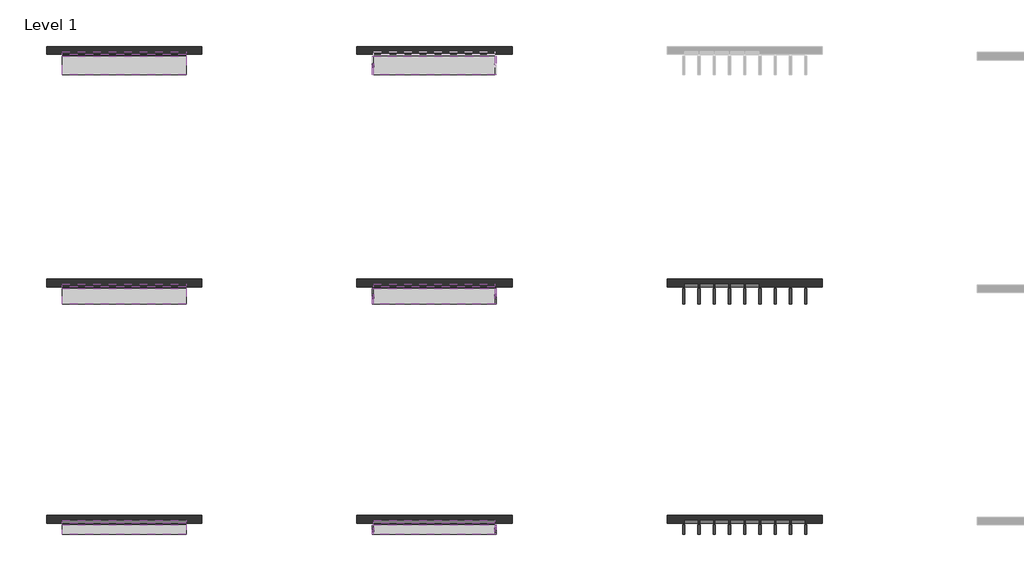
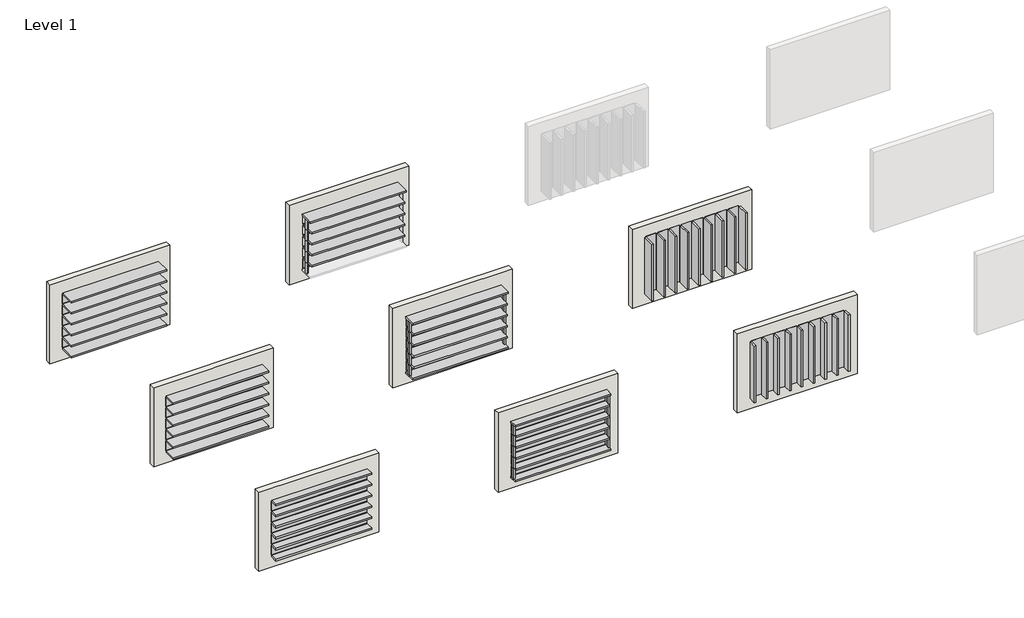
# One storey, part 1 of 2: 78 members, 42 plates, 8 walls.
"""IFC4 building model written with IfcOpenShell, lengths in millimetres."""

from ifc_helpers import new_model, si_unit, frame, origin, place, context, project, spatial, polyline, outline, extrude, transform, mapped, element, save
from components import rectangular_mullion_314c2c16, rectangular_mullion_e42d0783, rectangular_mullion_085ac4ea, rectangular_mullion_8bd04ff6, rectangular_mullion_a84aeb48, rectangular_mullion_c6d65d48, rectangular_mullion_2e33dcae, rectangular_mullion_94b31103, rectangular_mullion_7df8d016, rectangular_mullion_8bb3a10a, rectangular_mullion_d6f15889, rectangular_mullion_6e218a77, rectangular_mullion_b76d229c, rectangular_mullion_4c34dfbc, rectangular_mullion_be024750, rectangular_mullion_aae955fb, rectangular_mullion_9a2d486a, rectangular_mullion_e13a8b86, rectangular_mullion_43a89640, rectangular_mullion_75429e41, rectangular_mullion_9816f709, rectangular_mullion_ad60da95, rectangular_mullion_b48c3bbc, rectangular_mullion_64b65505, rectangular_mullion_6cfd7e29, rectangular_mullion_acc3b66f, rectangular_mullion_c6cb1da7, rectangular_mullion_bf93cbae, empty_system_panel_empty_a01ad49f, empty_system_panel_empty_cc8383ed, empty_system_panel_empty_ffccf032

model = new_model("IFC4")

# Units and contexts
model_context = context("Model", 3, world=origin())
ifc_project = project(units=[si_unit("LENGTHUNIT", "METRE", prefix="MILLI")], contexts=[model_context])

# Site, building, storey
site = spatial("IfcSite", under=ifc_project)
building = spatial("IfcBuilding", under=site)
storey = spatial("IfcBuildingStorey", under=building, Name="Level 1", Elevation=0.0)

# Members
placement = place(None, origin())
rectangular_mullion_shape = rectangular_mullion_314c2c16(model_context)
element("IfcMember", 1, ObjectType="Rectangular Mullion : DucoSun Cubic Design louvre 300", at=placement, inside=storey, context=model_context, shape_type="MappedRepresentation", body=[
    mapped(rectangular_mullion_shape, transform((-39750.3735323, 5955.0640004, 0.0), x_axis=(1.0, 0.0, 0.0), y_axis=(0.0, -1.0, 0.0), z_axis=(0.0, 0.0, -1.0))),
])
element("IfcMember", 2, ObjectType="Rectangular Mullion : DucoSun Cubic Design louvre 300", at=placement, inside=storey, context=model_context, shape_type="MappedRepresentation", body=[
    mapped(rectangular_mullion_shape, transform((-39258.8735324, 5955.0640004, 0.0), x_axis=(1.0, 0.0, 0.0), y_axis=(0.0, -1.0, 0.0), z_axis=(0.0, 0.0, -1.0))),
])
element("IfcMember", 3, ObjectType="Rectangular Mullion : DucoSun Cubic Design louvre 300", at=placement, inside=storey, context=model_context, shape_type="MappedRepresentation", body=[
    mapped(rectangular_mullion_shape, transform((-38767.3735325, 5955.0640004, 0.0), x_axis=(1.0, 0.0, 0.0), y_axis=(0.0, -1.0, 0.0), z_axis=(0.0, 0.0, -1.0))),
])
element("IfcMember", 4, ObjectType="Rectangular Mullion : DucoSun Cubic Design louvre 300", at=placement, inside=storey, context=model_context, shape_type="MappedRepresentation", body=[
    mapped(rectangular_mullion_shape, transform((-38275.8735325, 5955.0640004, 0.0), x_axis=(1.0, 0.0, 0.0), y_axis=(0.0, -1.0, 0.0), z_axis=(0.0, 0.0, -1.0))),
])
element("IfcMember", 5, ObjectType="Rectangular Mullion : DucoSun Cubic Design louvre 300", at=placement, inside=storey, context=model_context, shape_type="MappedRepresentation", body=[
    mapped(rectangular_mullion_shape, transform((-37784.3735326, 5955.0640004, 0.0), x_axis=(1.0, 0.0, 0.0), y_axis=(0.0, -1.0, 0.0), z_axis=(0.0, 0.0, -1.0))),
])
element("IfcMember", 6, ObjectType="Rectangular Mullion : DucoSun Cubic Design louvre 300", at=placement, inside=storey, context=model_context, shape_type="MappedRepresentation", body=[
    mapped(rectangular_mullion_shape, transform((-37292.8735327, 5955.0640004, 0.0), x_axis=(1.0, 0.0, 0.0), y_axis=(0.0, -1.0, 0.0), z_axis=(0.0, 0.0, -1.0))),
])
element("IfcMember", 7, ObjectType="Rectangular Mullion : DucoSun Cubic Design louvre 300", at=placement, inside=storey, context=model_context, shape_type="MappedRepresentation", body=[
    mapped(rectangular_mullion_shape, transform((-36801.3735328, 5955.0640004, 0.0), x_axis=(1.0, 0.0, 0.0), y_axis=(0.0, -1.0, 0.0), z_axis=(0.0, 0.0, -1.0))),
])
rectangular_mullion_2_shape = rectangular_mullion_e42d0783(model_context)
element("IfcMember", 8, ObjectType="Rectangular Mullion : DucoSun Cubic Design louvre 300", at=placement, inside=storey, context=model_context, shape_type="MappedRepresentation", body=[
    mapped(rectangular_mullion_2_shape, transform((-36275.8735325, 5955.0640004, 0.0), x_axis=(1.0, 0.0, 0.0), y_axis=(0.0, -1.0, 0.0), z_axis=(0.0, 0.0, -1.0))),
])
rectangular_mullion_3_shape = rectangular_mullion_085ac4ea(model_context)
element("IfcMember", 9, ObjectType="Rectangular Mullion : DucoSun Cubic Design louvre 300", at=placement, inside=storey, context=model_context, shape_type="MappedRepresentation", body=[
    mapped(rectangular_mullion_3_shape, transform((-40275.8735325, 5955.0640004, 2500.0), x_axis=(-1.0, 0.0, 0.0), y_axis=(0.0, -1.0, 0.0), z_axis=(0.0, 0.0, 1.0))),
])
rectangular_mullion_4_shape = rectangular_mullion_8bd04ff6(model_context)
element("IfcMember", 10, ObjectType="Rectangular Mullion : DucoSun Cubic Design louvre 500", at=placement, inside=storey, context=model_context, shape_type="MappedRepresentation", body=[
    mapped(rectangular_mullion_4_shape, transform((-39750.3735323, 13580.0640004, 0.0), x_axis=(1.0, 0.0, 0.0), y_axis=(0.0, -1.0, 0.0), z_axis=(0.0, 0.0, -1.0))),
])
element("IfcMember", 11, ObjectType="Rectangular Mullion : DucoSun Cubic Design louvre 500", at=placement, inside=storey, context=model_context, shape_type="MappedRepresentation", body=[
    mapped(rectangular_mullion_4_shape, transform((-39258.8735324, 13580.0640004, 0.0), x_axis=(1.0, 0.0, 0.0), y_axis=(0.0, -1.0, 0.0), z_axis=(0.0, 0.0, -1.0))),
])
element("IfcMember", 12, ObjectType="Rectangular Mullion : DucoSun Cubic Design louvre 500", at=placement, inside=storey, context=model_context, shape_type="MappedRepresentation", body=[
    mapped(rectangular_mullion_4_shape, transform((-38767.3735325, 13580.0640004, 0.0), x_axis=(1.0, 0.0, 0.0), y_axis=(0.0, -1.0, 0.0), z_axis=(0.0, 0.0, -1.0))),
])
element("IfcMember", 13, ObjectType="Rectangular Mullion : DucoSun Cubic Design louvre 500", at=placement, inside=storey, context=model_context, shape_type="MappedRepresentation", body=[
    mapped(rectangular_mullion_4_shape, transform((-38275.8735325, 13580.0640004, 0.0), x_axis=(1.0, 0.0, 0.0), y_axis=(0.0, -1.0, 0.0), z_axis=(0.0, 0.0, -1.0))),
])
element("IfcMember", 14, ObjectType="Rectangular Mullion : DucoSun Cubic Design louvre 500", at=placement, inside=storey, context=model_context, shape_type="MappedRepresentation", body=[
    mapped(rectangular_mullion_4_shape, transform((-37784.3735326, 13580.0640004, 0.0), x_axis=(1.0, 0.0, 0.0), y_axis=(0.0, -1.0, 0.0), z_axis=(0.0, 0.0, -1.0))),
])
element("IfcMember", 15, ObjectType="Rectangular Mullion : DucoSun Cubic Design louvre 500", at=placement, inside=storey, context=model_context, shape_type="MappedRepresentation", body=[
    mapped(rectangular_mullion_4_shape, transform((-37292.8735327, 13580.0640004, 0.0), x_axis=(1.0, 0.0, 0.0), y_axis=(0.0, -1.0, 0.0), z_axis=(0.0, 0.0, -1.0))),
])
element("IfcMember", 16, ObjectType="Rectangular Mullion : DucoSun Cubic Design louvre 500", at=placement, inside=storey, context=model_context, shape_type="MappedRepresentation", body=[
    mapped(rectangular_mullion_4_shape, transform((-36801.3735328, 13580.0640004, 0.0), x_axis=(1.0, 0.0, 0.0), y_axis=(0.0, -1.0, 0.0), z_axis=(0.0, 0.0, -1.0))),
])
rectangular_mullion_5_shape = rectangular_mullion_a84aeb48(model_context)
element("IfcMember", 17, ObjectType="Rectangular Mullion : DucoSun Cubic Design louvre 500", at=placement, inside=storey, context=model_context, shape_type="MappedRepresentation", body=[
    mapped(rectangular_mullion_5_shape, transform((-36275.8735325, 13580.0640004, 0.0), x_axis=(1.0, 0.0, 0.0), y_axis=(0.0, -1.0, 0.0), z_axis=(0.0, 0.0, -1.0))),
])
rectangular_mullion_6_shape = rectangular_mullion_c6d65d48(model_context)
element("IfcMember", 18, ObjectType="Rectangular Mullion : DucoSun Cubic Design louvre 500", at=placement, inside=storey, context=model_context, shape_type="MappedRepresentation", body=[
    mapped(rectangular_mullion_6_shape, transform((-40275.8735325, 13580.0640004, 2500.0), x_axis=(-1.0, 0.0, 0.0), y_axis=(0.0, -1.0, 0.0), z_axis=(0.0, 0.0, 1.0))),
])
rectangular_mullion_7_shape = rectangular_mullion_2e33dcae(model_context)
element("IfcMember", 19, ObjectType="Rectangular Mullion : DucoSun Cubic Design louvre 300", at=placement, inside=storey, context=model_context, shape_type="MappedRepresentation", body=[
    mapped(rectangular_mullion_7_shape, transform((-60275.8735325, 5955.0640004, 2500.0), x_axis=(0.0, 0.0, 1.0), y_axis=(0.0, 1.0, 0.0), z_axis=(-1.0, 0.0, 0.0))),
])
rectangular_mullion_8_shape = rectangular_mullion_94b31103(model_context)
element("IfcMember", 20, ObjectType="Rectangular Mullion : DucoSun Cubic Design louvre 300", at=placement, inside=storey, context=model_context, shape_type="MappedRepresentation", body=[
    mapped(rectangular_mullion_8_shape, transform((-56275.8735325, 5955.0640004, 0.0), x_axis=(0.0, 0.0, -1.0), y_axis=(0.0, 1.0, 0.0), z_axis=(1.0, 0.0, 0.0))),
])
rectangular_mullion_9_shape = rectangular_mullion_7df8d016(model_context)
element("IfcMember", 21, ObjectType="Rectangular Mullion : DucoSun Cubic Design louvre 300", at=placement, inside=storey, context=model_context, shape_type="MappedRepresentation", body=[
    mapped(rectangular_mullion_9_shape, transform((-60275.8735325, 5955.0640004, 520.4), x_axis=(0.0, 0.0, 1.0), y_axis=(0.0, 1.0, 0.0), z_axis=(-1.0, 0.0, 0.0))),
])
element("IfcMember", 22, ObjectType="Rectangular Mullion : DucoSun Cubic Design louvre 300", at=placement, inside=storey, context=model_context, shape_type="MappedRepresentation", body=[
    mapped(rectangular_mullion_9_shape, transform((-60275.8735325, 5955.0640004, 1006.8), x_axis=(0.0, 0.0, 1.0), y_axis=(0.0, 1.0, 0.0), z_axis=(-1.0, 0.0, 0.0))),
])
element("IfcMember", 23, ObjectType="Rectangular Mullion : DucoSun Cubic Design louvre 300", at=placement, inside=storey, context=model_context, shape_type="MappedRepresentation", body=[
    mapped(rectangular_mullion_9_shape, transform((-60275.8735325, 5955.0640004, 1493.2), x_axis=(0.0, 0.0, 1.0), y_axis=(0.0, 1.0, 0.0), z_axis=(-1.0, 0.0, 0.0))),
])
element("IfcMember", 24, ObjectType="Rectangular Mullion : DucoSun Cubic Design louvre 300", at=placement, inside=storey, context=model_context, shape_type="MappedRepresentation", body=[
    mapped(rectangular_mullion_9_shape, transform((-60275.8735325, 5955.0640004, 1979.6), x_axis=(0.0, 0.0, 1.0), y_axis=(0.0, 1.0, 0.0), z_axis=(-1.0, 0.0, 0.0))),
])
rectangular_mullion_10_shape = rectangular_mullion_8bb3a10a(model_context)
element("IfcMember", 25, ObjectType="Rectangular Mullion : DucoSun Cubic Design louvre 500", at=placement, inside=storey, context=model_context, shape_type="MappedRepresentation", body=[
    mapped(rectangular_mullion_10_shape, transform((-60275.8735325, 13580.0640004, 2500.0), x_axis=(0.0, 0.0, 1.0), y_axis=(0.0, 1.0, 0.0), z_axis=(-1.0, 0.0, 0.0))),
])
rectangular_mullion_11_shape = rectangular_mullion_d6f15889(model_context)
element("IfcMember", 26, ObjectType="Rectangular Mullion : DucoSun Cubic Design louvre 500", at=placement, inside=storey, context=model_context, shape_type="MappedRepresentation", body=[
    mapped(rectangular_mullion_11_shape, transform((-56275.8735325, 13580.0640004, 0.0), x_axis=(0.0, 0.0, -1.0), y_axis=(0.0, 1.0, 0.0), z_axis=(1.0, 0.0, 0.0))),
])
rectangular_mullion_12_shape = rectangular_mullion_6e218a77(model_context)
element("IfcMember", 27, ObjectType="Rectangular Mullion : DucoSun Cubic Design louvre 500", at=placement, inside=storey, context=model_context, shape_type="MappedRepresentation", body=[
    mapped(rectangular_mullion_12_shape, transform((-60275.8735325, 13580.0640004, 520.4), x_axis=(0.0, 0.0, 1.0), y_axis=(0.0, 1.0, 0.0), z_axis=(-1.0, 0.0, 0.0))),
])
element("IfcMember", 28, ObjectType="Rectangular Mullion : DucoSun Cubic Design louvre 500", at=placement, inside=storey, context=model_context, shape_type="MappedRepresentation", body=[
    mapped(rectangular_mullion_12_shape, transform((-60275.8735325, 13580.0640004, 1006.8), x_axis=(0.0, 0.0, 1.0), y_axis=(0.0, 1.0, 0.0), z_axis=(-1.0, 0.0, 0.0))),
])
element("IfcMember", 29, ObjectType="Rectangular Mullion : DucoSun Cubic Design louvre 500", at=placement, inside=storey, context=model_context, shape_type="MappedRepresentation", body=[
    mapped(rectangular_mullion_12_shape, transform((-60275.8735325, 13580.0640004, 1493.2), x_axis=(0.0, 0.0, 1.0), y_axis=(0.0, 1.0, 0.0), z_axis=(-1.0, 0.0, 0.0))),
])
element("IfcMember", 30, ObjectType="Rectangular Mullion : DucoSun Cubic Design louvre 500", at=placement, inside=storey, context=model_context, shape_type="MappedRepresentation", body=[
    mapped(rectangular_mullion_12_shape, transform((-60275.8735325, 13580.0640004, 1979.6), x_axis=(0.0, 0.0, 1.0), y_axis=(0.0, 1.0, 0.0), z_axis=(-1.0, 0.0, 0.0))),
])
rectangular_mullion_13_shape = rectangular_mullion_b76d229c(model_context)
element("IfcMember", 31, ObjectType="Rectangular Mullion : DucoSun Cubic Design louvre 600", at=placement, inside=storey, context=model_context, shape_type="MappedRepresentation", body=[
    mapped(rectangular_mullion_13_shape, transform((-60275.8735325, 21080.0640004, 2500.0), x_axis=(0.0, 0.0, 1.0), y_axis=(0.0, 1.0, 0.0), z_axis=(-1.0, 0.0, 0.0))),
])
rectangular_mullion_14_shape = rectangular_mullion_4c34dfbc(model_context)
element("IfcMember", 32, ObjectType="Rectangular Mullion : DucoSun Cubic Design louvre 600", at=placement, inside=storey, context=model_context, shape_type="MappedRepresentation", body=[
    mapped(rectangular_mullion_14_shape, transform((-56275.8735325, 21080.0640004, 0.0), x_axis=(0.0, 0.0, -1.0), y_axis=(0.0, 1.0, 0.0), z_axis=(1.0, 0.0, 0.0))),
])
rectangular_mullion_15_shape = rectangular_mullion_be024750(model_context)
element("IfcMember", 33, ObjectType="Rectangular Mullion : DucoSun Cubic Design louvre 600", at=placement, inside=storey, context=model_context, shape_type="MappedRepresentation", body=[
    mapped(rectangular_mullion_15_shape, transform((-60275.8735325, 21080.0640004, 520.4), x_axis=(0.0, 0.0, 1.0), y_axis=(0.0, 1.0, 0.0), z_axis=(-1.0, 0.0, 0.0))),
])
element("IfcMember", 34, ObjectType="Rectangular Mullion : DucoSun Cubic Design louvre 600", at=placement, inside=storey, context=model_context, shape_type="MappedRepresentation", body=[
    mapped(rectangular_mullion_15_shape, transform((-60275.8735325, 21080.0640004, 1006.8), x_axis=(0.0, 0.0, 1.0), y_axis=(0.0, 1.0, 0.0), z_axis=(-1.0, 0.0, 0.0))),
])
element("IfcMember", 35, ObjectType="Rectangular Mullion : DucoSun Cubic Design louvre 600", at=placement, inside=storey, context=model_context, shape_type="MappedRepresentation", body=[
    mapped(rectangular_mullion_15_shape, transform((-60275.8735325, 21080.0640004, 1493.2), x_axis=(0.0, 0.0, 1.0), y_axis=(0.0, 1.0, 0.0), z_axis=(-1.0, 0.0, 0.0))),
])
element("IfcMember", 36, ObjectType="Rectangular Mullion : DucoSun Cubic Design louvre 600", at=placement, inside=storey, context=model_context, shape_type="MappedRepresentation", body=[
    mapped(rectangular_mullion_15_shape, transform((-60275.8735325, 21080.0640004, 1979.6), x_axis=(0.0, 0.0, 1.0), y_axis=(0.0, 1.0, 0.0), z_axis=(-1.0, 0.0, 0.0))),
])
element("IfcMember", 37, ObjectType="Rectangular Mullion : DucoSun Cubic Design louvre 300", at=placement, inside=storey, context=model_context, shape_type="MappedRepresentation", body=[
    mapped(rectangular_mullion_7_shape, transform((-50275.8735325, 5955.0640004, 2500.0), x_axis=(0.0, 0.0, 1.0), y_axis=(0.0, 1.0, 0.0), z_axis=(-1.0, 0.0, 0.0))),
])
element("IfcMember", 38, ObjectType="Rectangular Mullion : DucoSun Cubic Design louvre 300", at=placement, inside=storey, context=model_context, shape_type="MappedRepresentation", body=[
    mapped(rectangular_mullion_8_shape, transform((-46275.8735325, 5955.0640004, 0.0), x_axis=(0.0, 0.0, -1.0), y_axis=(0.0, 1.0, 0.0), z_axis=(1.0, 0.0, 0.0))),
])
rectangular_mullion_16_shape = rectangular_mullion_aae955fb(model_context)
element("IfcMember", 39, ObjectType="Rectangular Mullion : DucoSun Cubic Design louvre 300", at=placement, inside=storey, context=model_context, shape_type="MappedRepresentation", body=[
    mapped(rectangular_mullion_16_shape, transform((-50225.8735325, 5955.0640004, 520.4), x_axis=(0.0, 0.0, 1.0), y_axis=(0.0, 1.0, 0.0), z_axis=(-1.0, 0.0, 0.0))),
])
element("IfcMember", 40, ObjectType="Rectangular Mullion : DucoSun Cubic Design louvre 300", at=placement, inside=storey, context=model_context, shape_type="MappedRepresentation", body=[
    mapped(rectangular_mullion_16_shape, transform((-50225.8735325, 5955.0640004, 1006.8), x_axis=(0.0, 0.0, 1.0), y_axis=(0.0, 1.0, 0.0), z_axis=(-1.0, 0.0, 0.0))),
])
element("IfcMember", 41, ObjectType="Rectangular Mullion : DucoSun Cubic Design louvre 300", at=placement, inside=storey, context=model_context, shape_type="MappedRepresentation", body=[
    mapped(rectangular_mullion_16_shape, transform((-50225.8735325, 5955.0640004, 1493.2), x_axis=(0.0, 0.0, 1.0), y_axis=(0.0, 1.0, 0.0), z_axis=(-1.0, 0.0, 0.0))),
])
element("IfcMember", 42, ObjectType="Rectangular Mullion : DucoSun Cubic Design louvre 300", at=placement, inside=storey, context=model_context, shape_type="MappedRepresentation", body=[
    mapped(rectangular_mullion_16_shape, transform((-50225.8735325, 5955.0640004, 1979.6), x_axis=(0.0, 0.0, 1.0), y_axis=(0.0, 1.0, 0.0), z_axis=(-1.0, 0.0, 0.0))),
])
rectangular_mullion_17_shape = rectangular_mullion_9a2d486a(model_context)
element("IfcMember", 43, ObjectType="Rectangular Mullion : DucoSun Cubic Design profile 50x125 for louvre 300", at=placement, inside=storey, context=model_context, shape_type="MappedRepresentation", body=[
    mapped(rectangular_mullion_17_shape, transform((-50275.8735325, 5955.0640004, 68.0), x_axis=(-1.0, 0.0, 0.0), y_axis=(0.0, 1.0, 0.0), z_axis=(0.0, 0.0, -1.0))),
])
rectangular_mullion_18_shape = rectangular_mullion_e13a8b86(model_context)
element("IfcMember", 44, ObjectType="Rectangular Mullion : DucoSun Cubic Design profile 50x125 for louvre 300", at=placement, inside=storey, context=model_context, shape_type="MappedRepresentation", body=[
    mapped(rectangular_mullion_18_shape, transform((-50275.8735325, 5955.0640004, 520.4), x_axis=(-1.0, 0.0, 0.0), y_axis=(0.0, 1.0, 0.0), z_axis=(0.0, 0.0, -1.0))),
])
element("IfcMember", 45, ObjectType="Rectangular Mullion : DucoSun Cubic Design profile 50x125 for louvre 300", at=placement, inside=storey, context=model_context, shape_type="MappedRepresentation", body=[
    mapped(rectangular_mullion_18_shape, transform((-50275.8735325, 5955.0640004, 1006.8), x_axis=(-1.0, 0.0, 0.0), y_axis=(0.0, 1.0, 0.0), z_axis=(0.0, 0.0, -1.0))),
])
element("IfcMember", 46, ObjectType="Rectangular Mullion : DucoSun Cubic Design profile 50x125 for louvre 300", at=placement, inside=storey, context=model_context, shape_type="MappedRepresentation", body=[
    mapped(rectangular_mullion_18_shape, transform((-50275.8735325, 5955.0640004, 1493.2), x_axis=(-1.0, 0.0, 0.0), y_axis=(0.0, 1.0, 0.0), z_axis=(0.0, 0.0, -1.0))),
])
element("IfcMember", 47, ObjectType="Rectangular Mullion : DucoSun Cubic Design profile 50x125 for louvre 300", at=placement, inside=storey, context=model_context, shape_type="MappedRepresentation", body=[
    mapped(rectangular_mullion_17_shape, transform((-50275.8735325, 5955.0640004, 1979.6), x_axis=(-1.0, 0.0, 0.0), y_axis=(0.0, 1.0, 0.0), z_axis=(0.0, 0.0, -1.0))),
])
rectangular_mullion_19_shape = rectangular_mullion_43a89640(model_context)
element("IfcMember", 48, ObjectType="Rectangular Mullion : DucoSun Cubic Design profile 50x125 for louvre 300", at=placement, inside=storey, context=model_context, shape_type="MappedRepresentation", body=[
    mapped(rectangular_mullion_19_shape, transform((-46275.8735325, 5955.0640004, 2432.0), x_axis=(1.0, 0.0, 0.0), y_axis=(0.0, 1.0, 0.0), z_axis=(0.0, 0.0, 1.0))),
])
element("IfcMember", 49, ObjectType="Rectangular Mullion : DucoSun Cubic Design profile 50x125 for louvre 300", at=placement, inside=storey, context=model_context, shape_type="MappedRepresentation", body=[
    mapped(rectangular_mullion_19_shape, transform((-46275.8735325, 5955.0640004, 520.4), x_axis=(1.0, 0.0, 0.0), y_axis=(0.0, 1.0, 0.0), z_axis=(0.0, 0.0, 1.0))),
])
rectangular_mullion_20_shape = rectangular_mullion_75429e41(model_context)
element("IfcMember", 50, ObjectType="Rectangular Mullion : DucoSun Cubic Design profile 50x125 for louvre 300", at=placement, inside=storey, context=model_context, shape_type="MappedRepresentation", body=[
    mapped(rectangular_mullion_20_shape, transform((-46275.8735325, 5955.0640004, 1006.8), x_axis=(1.0, 0.0, 0.0), y_axis=(0.0, 1.0, 0.0), z_axis=(0.0, 0.0, 1.0))),
])
element("IfcMember", 51, ObjectType="Rectangular Mullion : DucoSun Cubic Design profile 50x125 for louvre 300", at=placement, inside=storey, context=model_context, shape_type="MappedRepresentation", body=[
    mapped(rectangular_mullion_20_shape, transform((-46275.8735325, 5955.0640004, 1493.2), x_axis=(1.0, 0.0, 0.0), y_axis=(0.0, 1.0, 0.0), z_axis=(0.0, 0.0, 1.0))),
])
element("IfcMember", 52, ObjectType="Rectangular Mullion : DucoSun Cubic Design profile 50x125 for louvre 300", at=placement, inside=storey, context=model_context, shape_type="MappedRepresentation", body=[
    mapped(rectangular_mullion_20_shape, transform((-46275.8735325, 5955.0640004, 1979.6), x_axis=(1.0, 0.0, 0.0), y_axis=(0.0, 1.0, 0.0), z_axis=(0.0, 0.0, 1.0))),
])
element("IfcMember", 53, ObjectType="Rectangular Mullion : DucoSun Cubic Design louvre 500", at=placement, inside=storey, context=model_context, shape_type="MappedRepresentation", body=[
    mapped(rectangular_mullion_10_shape, transform((-50275.8735325, 13580.0640004, 2500.0), x_axis=(0.0, 0.0, 1.0), y_axis=(0.0, 1.0, 0.0), z_axis=(-1.0, 0.0, 0.0))),
])
element("IfcMember", 54, ObjectType="Rectangular Mullion : DucoSun Cubic Design louvre 500", at=placement, inside=storey, context=model_context, shape_type="MappedRepresentation", body=[
    mapped(rectangular_mullion_11_shape, transform((-46275.8735325, 13580.0640004, 0.0), x_axis=(0.0, 0.0, -1.0), y_axis=(0.0, 1.0, 0.0), z_axis=(1.0, 0.0, 0.0))),
])
rectangular_mullion_21_shape = rectangular_mullion_9816f709(model_context)
element("IfcMember", 55, ObjectType="Rectangular Mullion : DucoSun Cubic Design louvre 500", at=placement, inside=storey, context=model_context, shape_type="MappedRepresentation", body=[
    mapped(rectangular_mullion_21_shape, transform((-50225.8735325, 13580.0640004, 520.4), x_axis=(0.0, 0.0, 1.0), y_axis=(0.0, 1.0, 0.0), z_axis=(-1.0, 0.0, 0.0))),
])
element("IfcMember", 56, ObjectType="Rectangular Mullion : DucoSun Cubic Design louvre 500", at=placement, inside=storey, context=model_context, shape_type="MappedRepresentation", body=[
    mapped(rectangular_mullion_21_shape, transform((-50225.8735325, 13580.0640004, 1006.8), x_axis=(0.0, 0.0, 1.0), y_axis=(0.0, 1.0, 0.0), z_axis=(-1.0, 0.0, 0.0))),
])
element("IfcMember", 57, ObjectType="Rectangular Mullion : DucoSun Cubic Design louvre 500", at=placement, inside=storey, context=model_context, shape_type="MappedRepresentation", body=[
    mapped(rectangular_mullion_21_shape, transform((-50225.8735325, 13580.0640004, 1493.2), x_axis=(0.0, 0.0, 1.0), y_axis=(0.0, 1.0, 0.0), z_axis=(-1.0, 0.0, 0.0))),
])
element("IfcMember", 58, ObjectType="Rectangular Mullion : DucoSun Cubic Design louvre 500", at=placement, inside=storey, context=model_context, shape_type="MappedRepresentation", body=[
    mapped(rectangular_mullion_21_shape, transform((-50225.8735325, 13580.0640004, 1979.6), x_axis=(0.0, 0.0, 1.0), y_axis=(0.0, 1.0, 0.0), z_axis=(-1.0, 0.0, 0.0))),
])
rectangular_mullion_22_shape = rectangular_mullion_ad60da95(model_context)
element("IfcMember", 59, ObjectType="Rectangular Mullion : DucoSun Cubic Design profile 50x125 for louvre 500", at=placement, inside=storey, context=model_context, shape_type="MappedRepresentation", body=[
    mapped(rectangular_mullion_22_shape, transform((-50275.8735325, 13580.0640004, 68.0), x_axis=(-1.0, 0.0, 0.0), y_axis=(0.0, 1.0, 0.0), z_axis=(0.0, 0.0, -1.0))),
])
rectangular_mullion_23_shape = rectangular_mullion_b48c3bbc(model_context)
element("IfcMember", 60, ObjectType="Rectangular Mullion : DucoSun Cubic Design profile 50x125 for louvre 500", at=placement, inside=storey, context=model_context, shape_type="MappedRepresentation", body=[
    mapped(rectangular_mullion_23_shape, transform((-50275.8735325, 13580.0640004, 520.4), x_axis=(-1.0, 0.0, 0.0), y_axis=(0.0, 1.0, 0.0), z_axis=(0.0, 0.0, -1.0))),
])
element("IfcMember", 61, ObjectType="Rectangular Mullion : DucoSun Cubic Design profile 50x125 for louvre 500", at=placement, inside=storey, context=model_context, shape_type="MappedRepresentation", body=[
    mapped(rectangular_mullion_23_shape, transform((-50275.8735325, 13580.0640004, 1006.8), x_axis=(-1.0, 0.0, 0.0), y_axis=(0.0, 1.0, 0.0), z_axis=(0.0, 0.0, -1.0))),
])
element("IfcMember", 62, ObjectType="Rectangular Mullion : DucoSun Cubic Design profile 50x125 for louvre 500", at=placement, inside=storey, context=model_context, shape_type="MappedRepresentation", body=[
    mapped(rectangular_mullion_23_shape, transform((-50275.8735325, 13580.0640004, 1493.2), x_axis=(-1.0, 0.0, 0.0), y_axis=(0.0, 1.0, 0.0), z_axis=(0.0, 0.0, -1.0))),
])
element("IfcMember", 63, ObjectType="Rectangular Mullion : DucoSun Cubic Design profile 50x125 for louvre 500", at=placement, inside=storey, context=model_context, shape_type="MappedRepresentation", body=[
    mapped(rectangular_mullion_22_shape, transform((-50275.8735325, 13580.0640004, 1979.6), x_axis=(-1.0, 0.0, 0.0), y_axis=(0.0, 1.0, 0.0), z_axis=(0.0, 0.0, -1.0))),
])
rectangular_mullion_24_shape = rectangular_mullion_64b65505(model_context)
element("IfcMember", 64, ObjectType="Rectangular Mullion : DucoSun Cubic Design profile 50x125 for louvre 500", at=placement, inside=storey, context=model_context, shape_type="MappedRepresentation", body=[
    mapped(rectangular_mullion_24_shape, transform((-46275.8735325, 13580.0640004, 2432.0), x_axis=(1.0, 0.0, 0.0), y_axis=(0.0, 1.0, 0.0), z_axis=(0.0, 0.0, 1.0))),
])
element("IfcMember", 65, ObjectType="Rectangular Mullion : DucoSun Cubic Design profile 50x125 for louvre 500", at=placement, inside=storey, context=model_context, shape_type="MappedRepresentation", body=[
    mapped(rectangular_mullion_24_shape, transform((-46275.8735325, 13580.0640004, 520.4), x_axis=(1.0, 0.0, 0.0), y_axis=(0.0, 1.0, 0.0), z_axis=(0.0, 0.0, 1.0))),
])
rectangular_mullion_25_shape = rectangular_mullion_6cfd7e29(model_context)
element("IfcMember", 66, ObjectType="Rectangular Mullion : DucoSun Cubic Design profile 50x125 for louvre 500", at=placement, inside=storey, context=model_context, shape_type="MappedRepresentation", body=[
    mapped(rectangular_mullion_25_shape, transform((-46275.8735325, 13580.0640004, 1006.8), x_axis=(1.0, 0.0, 0.0), y_axis=(0.0, 1.0, 0.0), z_axis=(0.0, 0.0, 1.0))),
])
element("IfcMember", 67, ObjectType="Rectangular Mullion : DucoSun Cubic Design profile 50x125 for louvre 500", at=placement, inside=storey, context=model_context, shape_type="MappedRepresentation", body=[
    mapped(rectangular_mullion_25_shape, transform((-46275.8735325, 13580.0640004, 1493.2), x_axis=(1.0, 0.0, 0.0), y_axis=(0.0, 1.0, 0.0), z_axis=(0.0, 0.0, 1.0))),
])
element("IfcMember", 68, ObjectType="Rectangular Mullion : DucoSun Cubic Design profile 50x125 for louvre 500", at=placement, inside=storey, context=model_context, shape_type="MappedRepresentation", body=[
    mapped(rectangular_mullion_25_shape, transform((-46275.8735325, 13580.0640004, 1979.6), x_axis=(1.0, 0.0, 0.0), y_axis=(0.0, 1.0, 0.0), z_axis=(0.0, 0.0, 1.0))),
])
element("IfcMember", 69, ObjectType="Rectangular Mullion : DucoSun Cubic Design louvre 600", at=placement, inside=storey, context=model_context, shape_type="MappedRepresentation", body=[
    mapped(rectangular_mullion_13_shape, transform((-50275.8735325, 21080.0640004, 2500.0), x_axis=(0.0, 0.0, 1.0), y_axis=(0.0, 1.0, 0.0), z_axis=(-1.0, 0.0, 0.0))),
])
rectangular_mullion_26_shape = rectangular_mullion_acc3b66f(model_context)
element("IfcMember", 70, ObjectType="Rectangular Mullion : DucoSun Cubic Design louvre 600", at=placement, inside=storey, context=model_context, shape_type="MappedRepresentation", body=[
    mapped(rectangular_mullion_26_shape, transform((-50225.8735325, 21080.0640004, 520.4), x_axis=(0.0, 0.0, 1.0), y_axis=(0.0, 1.0, 0.0), z_axis=(-1.0, 0.0, 0.0))),
])
element("IfcMember", 71, ObjectType="Rectangular Mullion : DucoSun Cubic Design louvre 600", at=placement, inside=storey, context=model_context, shape_type="MappedRepresentation", body=[
    mapped(rectangular_mullion_26_shape, transform((-50225.8735325, 21080.0640004, 1006.8), x_axis=(0.0, 0.0, 1.0), y_axis=(0.0, 1.0, 0.0), z_axis=(-1.0, 0.0, 0.0))),
])
element("IfcMember", 72, ObjectType="Rectangular Mullion : DucoSun Cubic Design louvre 600", at=placement, inside=storey, context=model_context, shape_type="MappedRepresentation", body=[
    mapped(rectangular_mullion_26_shape, transform((-50225.8735325, 21080.0640004, 1493.2), x_axis=(0.0, 0.0, 1.0), y_axis=(0.0, 1.0, 0.0), z_axis=(-1.0, 0.0, 0.0))),
])
element("IfcMember", 73, ObjectType="Rectangular Mullion : DucoSun Cubic Design louvre 600", at=placement, inside=storey, context=model_context, shape_type="MappedRepresentation", body=[
    mapped(rectangular_mullion_26_shape, transform((-50225.8735325, 21080.0640004, 1979.6), x_axis=(0.0, 0.0, 1.0), y_axis=(0.0, 1.0, 0.0), z_axis=(-1.0, 0.0, 0.0))),
])
rectangular_mullion_27_shape = rectangular_mullion_c6cb1da7(model_context)
element("IfcMember", 74, ObjectType="Rectangular Mullion : DucoSun Cubic Design profile 50x125 for louvre 600", at=placement, inside=storey, context=model_context, shape_type="MappedRepresentation", body=[
    mapped(rectangular_mullion_27_shape, transform((-50275.8735325, 21080.0640004, 68.0), x_axis=(-1.0, 0.0, 0.0), y_axis=(0.0, 1.0, 0.0), z_axis=(0.0, 0.0, -1.0))),
])
rectangular_mullion_28_shape = rectangular_mullion_bf93cbae(model_context)
element("IfcMember", 75, ObjectType="Rectangular Mullion : DucoSun Cubic Design profile 50x125 for louvre 600", at=placement, inside=storey, context=model_context, shape_type="MappedRepresentation", body=[
    mapped(rectangular_mullion_28_shape, transform((-50275.8735325, 21080.0640004, 520.4), x_axis=(-1.0, 0.0, 0.0), y_axis=(0.0, 1.0, 0.0), z_axis=(0.0, 0.0, -1.0))),
])
element("IfcMember", 76, ObjectType="Rectangular Mullion : DucoSun Cubic Design profile 50x125 for louvre 600", at=placement, inside=storey, context=model_context, shape_type="MappedRepresentation", body=[
    mapped(rectangular_mullion_28_shape, transform((-50275.8735325, 21080.0640004, 1006.8), x_axis=(-1.0, 0.0, 0.0), y_axis=(0.0, 1.0, 0.0), z_axis=(0.0, 0.0, -1.0))),
])
element("IfcMember", 77, ObjectType="Rectangular Mullion : DucoSun Cubic Design profile 50x125 for louvre 600", at=placement, inside=storey, context=model_context, shape_type="MappedRepresentation", body=[
    mapped(rectangular_mullion_28_shape, transform((-50275.8735325, 21080.0640004, 1493.2), x_axis=(-1.0, 0.0, 0.0), y_axis=(0.0, 1.0, 0.0), z_axis=(0.0, 0.0, -1.0))),
])
element("IfcMember", 78, ObjectType="Rectangular Mullion : DucoSun Cubic Design profile 50x125 for louvre 600", at=placement, inside=storey, context=model_context, shape_type="MappedRepresentation", body=[
    mapped(rectangular_mullion_27_shape, transform((-50275.8735325, 21080.0640004, 1979.6), x_axis=(-1.0, 0.0, 0.0), y_axis=(0.0, 1.0, 0.0), z_axis=(0.0, 0.0, -1.0))),
])

# Plates
empty_system_panel_empty_shape = empty_system_panel_empty_a01ad49f(model_context)
element("IfcPlate", 79, ObjectType="Empty System Panel : Empty", at=placement, inside=storey, context=model_context, shape_type="MappedRepresentation", body=[
    mapped(empty_system_panel_empty_shape, transform((-39996.1235324, 5955.0640004, 0.0), x_axis=(1.0, 0.0, 0.0), y_axis=(0.0, 1.0, 0.0), z_axis=(0.0, 0.0, 1.0))),
])
element("IfcPlate", 80, ObjectType="Empty System Panel : Empty", at=placement, inside=storey, context=model_context, shape_type="MappedRepresentation", body=[
    mapped(empty_system_panel_empty_shape, transform((-39504.6235323, 5955.0640004, 0.0), x_axis=(1.0, 0.0, 0.0), y_axis=(0.0, 1.0, 0.0), z_axis=(0.0, 0.0, 1.0))),
])
element("IfcPlate", 81, ObjectType="Empty System Panel : Empty", at=placement, inside=storey, context=model_context, shape_type="MappedRepresentation", body=[
    mapped(empty_system_panel_empty_shape, transform((-39013.1235324, 5955.0640004, 0.0), x_axis=(1.0, 0.0, 0.0), y_axis=(0.0, 1.0, 0.0), z_axis=(0.0, 0.0, 1.0))),
])
element("IfcPlate", 82, ObjectType="Empty System Panel : Empty", at=placement, inside=storey, context=model_context, shape_type="MappedRepresentation", body=[
    mapped(empty_system_panel_empty_shape, transform((-38521.6235325, 5955.0640004, 0.0), x_axis=(1.0, 0.0, 0.0), y_axis=(0.0, 1.0, 0.0), z_axis=(0.0, 0.0, 1.0))),
])
element("IfcPlate", 83, ObjectType="Empty System Panel : Empty", at=placement, inside=storey, context=model_context, shape_type="MappedRepresentation", body=[
    mapped(empty_system_panel_empty_shape, transform((-38030.1235326, 5955.0640004, 0.0), x_axis=(1.0, 0.0, 0.0), y_axis=(0.0, 1.0, 0.0), z_axis=(0.0, 0.0, 1.0))),
])
element("IfcPlate", 84, ObjectType="Empty System Panel : Empty", at=placement, inside=storey, context=model_context, shape_type="MappedRepresentation", body=[
    mapped(empty_system_panel_empty_shape, transform((-37538.6235327, 5955.0640004, 0.0), x_axis=(1.0, 0.0, 0.0), y_axis=(0.0, 1.0, 0.0), z_axis=(0.0, 0.0, 1.0))),
])
element("IfcPlate", 85, ObjectType="Empty System Panel : Empty", at=placement, inside=storey, context=model_context, shape_type="MappedRepresentation", body=[
    mapped(empty_system_panel_empty_shape, transform((-37047.1235327, 5955.0640004, 0.0), x_axis=(1.0, 0.0, 0.0), y_axis=(0.0, 1.0, 0.0), z_axis=(0.0, 0.0, 1.0))),
])
element("IfcPlate", 86, ObjectType="Empty System Panel : Empty", at=placement, inside=storey, context=model_context, shape_type="MappedRepresentation", body=[
    mapped(empty_system_panel_empty_shape, transform((-39996.1235324, 13580.0640004, 0.0), x_axis=(1.0, 0.0, 0.0), y_axis=(0.0, 1.0, 0.0), z_axis=(0.0, 0.0, 1.0))),
])
element("IfcPlate", 87, ObjectType="Empty System Panel : Empty", at=placement, inside=storey, context=model_context, shape_type="MappedRepresentation", body=[
    mapped(empty_system_panel_empty_shape, transform((-39504.6235323, 13580.0640004, 0.0), x_axis=(1.0, 0.0, 0.0), y_axis=(0.0, 1.0, 0.0), z_axis=(0.0, 0.0, 1.0))),
])
element("IfcPlate", 88, ObjectType="Empty System Panel : Empty", at=placement, inside=storey, context=model_context, shape_type="MappedRepresentation", body=[
    mapped(empty_system_panel_empty_shape, transform((-39013.1235324, 13580.0640004, 0.0), x_axis=(1.0, 0.0, 0.0), y_axis=(0.0, 1.0, 0.0), z_axis=(0.0, 0.0, 1.0))),
])
element("IfcPlate", 89, ObjectType="Empty System Panel : Empty", at=placement, inside=storey, context=model_context, shape_type="MappedRepresentation", body=[
    mapped(empty_system_panel_empty_shape, transform((-38521.6235325, 13580.0640004, 0.0), x_axis=(1.0, 0.0, 0.0), y_axis=(0.0, 1.0, 0.0), z_axis=(0.0, 0.0, 1.0))),
])
element("IfcPlate", 90, ObjectType="Empty System Panel : Empty", at=placement, inside=storey, context=model_context, shape_type="MappedRepresentation", body=[
    mapped(empty_system_panel_empty_shape, transform((-38030.1235326, 13580.0640004, 0.0), x_axis=(1.0, 0.0, 0.0), y_axis=(0.0, 1.0, 0.0), z_axis=(0.0, 0.0, 1.0))),
])
element("IfcPlate", 91, ObjectType="Empty System Panel : Empty", at=placement, inside=storey, context=model_context, shape_type="MappedRepresentation", body=[
    mapped(empty_system_panel_empty_shape, transform((-37538.6235327, 13580.0640004, 0.0), x_axis=(1.0, 0.0, 0.0), y_axis=(0.0, 1.0, 0.0), z_axis=(0.0, 0.0, 1.0))),
])
element("IfcPlate", 92, ObjectType="Empty System Panel : Empty", at=placement, inside=storey, context=model_context, shape_type="MappedRepresentation", body=[
    mapped(empty_system_panel_empty_shape, transform((-37047.1235327, 13580.0640004, 0.0), x_axis=(1.0, 0.0, 0.0), y_axis=(0.0, 1.0, 0.0), z_axis=(0.0, 0.0, 1.0))),
])
element("IfcPlate", 93, ObjectType="Empty System Panel : Empty", at=placement, inside=storey, context=model_context, shape_type="MappedRepresentation", body=[
    mapped(empty_system_panel_empty_shape, transform((-36555.6235327, 5955.0640004, 0.0), x_axis=(1.0, 0.0, 0.0), y_axis=(0.0, 1.0, 0.0), z_axis=(0.0, 0.0, 1.0))),
])
element("IfcPlate", 94, ObjectType="Empty System Panel : Empty", at=placement, inside=storey, context=model_context, shape_type="MappedRepresentation", body=[
    mapped(empty_system_panel_empty_shape, transform((-36555.6235327, 13580.0640004, 0.0), x_axis=(1.0, 0.0, 0.0), y_axis=(0.0, 1.0, 0.0), z_axis=(0.0, 0.0, 1.0))),
])
empty_system_panel_empty_2_shape = empty_system_panel_empty_cc8383ed(model_context)
element("IfcPlate", 95, ObjectType="Empty System Panel : Empty", at=placement, inside=storey, context=model_context, shape_type="MappedRepresentation", body=[
    mapped(empty_system_panel_empty_2_shape, transform((-48275.8735325, 5955.0640004, 68.0), x_axis=(-1.0, 0.0, 0.0), y_axis=(0.0, -1.0, 0.0), z_axis=(0.0, 0.0, 1.0))),
])
element("IfcPlate", 96, ObjectType="Empty System Panel : Empty", at=placement, inside=storey, context=model_context, shape_type="MappedRepresentation", body=[
    mapped(empty_system_panel_empty_2_shape, transform((-48275.8735325, 5955.0640004, 554.4), x_axis=(-1.0, 0.0, 0.0), y_axis=(0.0, -1.0, 0.0), z_axis=(0.0, 0.0, 1.0))),
])
element("IfcPlate", 97, ObjectType="Empty System Panel : Empty", at=placement, inside=storey, context=model_context, shape_type="MappedRepresentation", body=[
    mapped(empty_system_panel_empty_2_shape, transform((-48275.8735325, 5955.0640004, 1040.8), x_axis=(-1.0, 0.0, 0.0), y_axis=(0.0, -1.0, 0.0), z_axis=(0.0, 0.0, 1.0))),
])
element("IfcPlate", 98, ObjectType="Empty System Panel : Empty", at=placement, inside=storey, context=model_context, shape_type="MappedRepresentation", body=[
    mapped(empty_system_panel_empty_2_shape, transform((-48275.8735325, 5955.0640004, 1527.2), x_axis=(-1.0, 0.0, 0.0), y_axis=(0.0, -1.0, 0.0), z_axis=(0.0, 0.0, 1.0))),
])
element("IfcPlate", 99, ObjectType="Empty System Panel : Empty", at=placement, inside=storey, context=model_context, shape_type="MappedRepresentation", body=[
    mapped(empty_system_panel_empty_2_shape, transform((-48275.8735325, 5955.0640004, 2013.6), x_axis=(-1.0, 0.0, 0.0), y_axis=(0.0, -1.0, 0.0), z_axis=(0.0, 0.0, 1.0))),
])
element("IfcPlate", 100, ObjectType="Empty System Panel : Empty", at=placement, inside=storey, context=model_context, shape_type="MappedRepresentation", body=[
    mapped(empty_system_panel_empty_2_shape, transform((-48275.8735325, 13580.0640004, 68.0), x_axis=(-1.0, 0.0, 0.0), y_axis=(0.0, -1.0, 0.0), z_axis=(0.0, 0.0, 1.0))),
])
element("IfcPlate", 101, ObjectType="Empty System Panel : Empty", at=placement, inside=storey, context=model_context, shape_type="MappedRepresentation", body=[
    mapped(empty_system_panel_empty_2_shape, transform((-48275.8735325, 13580.0640004, 554.4), x_axis=(-1.0, 0.0, 0.0), y_axis=(0.0, -1.0, 0.0), z_axis=(0.0, 0.0, 1.0))),
])
element("IfcPlate", 102, ObjectType="Empty System Panel : Empty", at=placement, inside=storey, context=model_context, shape_type="MappedRepresentation", body=[
    mapped(empty_system_panel_empty_2_shape, transform((-48275.8735325, 13580.0640004, 1040.8), x_axis=(-1.0, 0.0, 0.0), y_axis=(0.0, -1.0, 0.0), z_axis=(0.0, 0.0, 1.0))),
])
element("IfcPlate", 103, ObjectType="Empty System Panel : Empty", at=placement, inside=storey, context=model_context, shape_type="MappedRepresentation", body=[
    mapped(empty_system_panel_empty_2_shape, transform((-48275.8735325, 13580.0640004, 1527.2), x_axis=(-1.0, 0.0, 0.0), y_axis=(0.0, -1.0, 0.0), z_axis=(0.0, 0.0, 1.0))),
])
element("IfcPlate", 104, ObjectType="Empty System Panel : Empty", at=placement, inside=storey, context=model_context, shape_type="MappedRepresentation", body=[
    mapped(empty_system_panel_empty_2_shape, transform((-48275.8735325, 13580.0640004, 2013.6), x_axis=(-1.0, 0.0, 0.0), y_axis=(0.0, -1.0, 0.0), z_axis=(0.0, 0.0, 1.0))),
])
element("IfcPlate", 105, ObjectType="Empty System Panel : Empty", at=placement, inside=storey, context=model_context, shape_type="MappedRepresentation", body=[
    mapped(empty_system_panel_empty_2_shape, transform((-48275.8735325, 21080.0640004, 68.0), x_axis=(-1.0, 0.0, 0.0), y_axis=(0.0, -1.0, 0.0), z_axis=(0.0, 0.0, 1.0))),
])
empty_system_panel_empty_3_shape = empty_system_panel_empty_ffccf032(model_context)
element("IfcPlate", 106, ObjectType="Empty System Panel : Empty", at=placement, inside=storey, context=model_context, shape_type="MappedRepresentation", body=[
    mapped(empty_system_panel_empty_3_shape, transform((-58275.8735325, 5955.0640004, 68.0), x_axis=(-1.0, 0.0, 0.0), y_axis=(0.0, -1.0, 0.0), z_axis=(0.0, 0.0, 1.0))),
])
element("IfcPlate", 107, ObjectType="Empty System Panel : Empty", at=placement, inside=storey, context=model_context, shape_type="MappedRepresentation", body=[
    mapped(empty_system_panel_empty_3_shape, transform((-58275.8735325, 5955.0640004, 554.4), x_axis=(-1.0, 0.0, 0.0), y_axis=(0.0, -1.0, 0.0), z_axis=(0.0, 0.0, 1.0))),
])
element("IfcPlate", 108, ObjectType="Empty System Panel : Empty", at=placement, inside=storey, context=model_context, shape_type="MappedRepresentation", body=[
    mapped(empty_system_panel_empty_3_shape, transform((-58275.8735325, 5955.0640004, 1040.8), x_axis=(-1.0, 0.0, 0.0), y_axis=(0.0, -1.0, 0.0), z_axis=(0.0, 0.0, 1.0))),
])
element("IfcPlate", 109, ObjectType="Empty System Panel : Empty", at=placement, inside=storey, context=model_context, shape_type="MappedRepresentation", body=[
    mapped(empty_system_panel_empty_3_shape, transform((-58275.8735325, 5955.0640004, 1527.2), x_axis=(-1.0, 0.0, 0.0), y_axis=(0.0, -1.0, 0.0), z_axis=(0.0, 0.0, 1.0))),
])
element("IfcPlate", 110, ObjectType="Empty System Panel : Empty", at=placement, inside=storey, context=model_context, shape_type="MappedRepresentation", body=[
    mapped(empty_system_panel_empty_3_shape, transform((-58275.8735325, 5955.0640004, 2013.6), x_axis=(-1.0, 0.0, 0.0), y_axis=(0.0, -1.0, 0.0), z_axis=(0.0, 0.0, 1.0))),
])
element("IfcPlate", 111, ObjectType="Empty System Panel : Empty", at=placement, inside=storey, context=model_context, shape_type="MappedRepresentation", body=[
    mapped(empty_system_panel_empty_3_shape, transform((-58275.8735325, 13580.0640004, 68.0), x_axis=(-1.0, 0.0, 0.0), y_axis=(0.0, -1.0, 0.0), z_axis=(0.0, 0.0, 1.0))),
])
element("IfcPlate", 112, ObjectType="Empty System Panel : Empty", at=placement, inside=storey, context=model_context, shape_type="MappedRepresentation", body=[
    mapped(empty_system_panel_empty_3_shape, transform((-58275.8735325, 13580.0640004, 554.4), x_axis=(-1.0, 0.0, 0.0), y_axis=(0.0, -1.0, 0.0), z_axis=(0.0, 0.0, 1.0))),
])
element("IfcPlate", 113, ObjectType="Empty System Panel : Empty", at=placement, inside=storey, context=model_context, shape_type="MappedRepresentation", body=[
    mapped(empty_system_panel_empty_3_shape, transform((-58275.8735325, 13580.0640004, 1040.8), x_axis=(-1.0, 0.0, 0.0), y_axis=(0.0, -1.0, 0.0), z_axis=(0.0, 0.0, 1.0))),
])
element("IfcPlate", 114, ObjectType="Empty System Panel : Empty", at=placement, inside=storey, context=model_context, shape_type="MappedRepresentation", body=[
    mapped(empty_system_panel_empty_3_shape, transform((-58275.8735325, 13580.0640004, 1527.2), x_axis=(-1.0, 0.0, 0.0), y_axis=(0.0, -1.0, 0.0), z_axis=(0.0, 0.0, 1.0))),
])
element("IfcPlate", 115, ObjectType="Empty System Panel : Empty", at=placement, inside=storey, context=model_context, shape_type="MappedRepresentation", body=[
    mapped(empty_system_panel_empty_3_shape, transform((-58275.8735325, 13580.0640004, 2013.6), x_axis=(-1.0, 0.0, 0.0), y_axis=(0.0, -1.0, 0.0), z_axis=(0.0, 0.0, 1.0))),
])
element("IfcPlate", 116, ObjectType="Empty System Panel : Empty", at=placement, inside=storey, context=model_context, shape_type="MappedRepresentation", body=[
    mapped(empty_system_panel_empty_3_shape, transform((-58275.8735325, 21080.0640004, 68.0), x_axis=(-1.0, 0.0, 0.0), y_axis=(0.0, -1.0, 0.0), z_axis=(0.0, 0.0, 1.0))),
])
element("IfcPlate", 117, ObjectType="Empty System Panel : Empty", at=placement, inside=storey, context=model_context, shape_type="MappedRepresentation", body=[
    mapped(empty_system_panel_empty_3_shape, transform((-58275.8735325, 21080.0640004, 554.4), x_axis=(-1.0, 0.0, 0.0), y_axis=(0.0, -1.0, 0.0), z_axis=(0.0, 0.0, 1.0))),
])
element("IfcPlate", 118, ObjectType="Empty System Panel : Empty", at=placement, inside=storey, context=model_context, shape_type="MappedRepresentation", body=[
    mapped(empty_system_panel_empty_3_shape, transform((-58275.8735325, 21080.0640004, 1040.8), x_axis=(-1.0, 0.0, 0.0), y_axis=(0.0, -1.0, 0.0), z_axis=(0.0, 0.0, 1.0))),
])
element("IfcPlate", 119, ObjectType="Empty System Panel : Empty", at=placement, inside=storey, context=model_context, shape_type="MappedRepresentation", body=[
    mapped(empty_system_panel_empty_3_shape, transform((-58275.8735325, 21080.0640004, 1527.2), x_axis=(-1.0, 0.0, 0.0), y_axis=(0.0, -1.0, 0.0), z_axis=(0.0, 0.0, 1.0))),
])
element("IfcPlate", 120, ObjectType="Empty System Panel : Empty", at=placement, inside=storey, context=model_context, shape_type="MappedRepresentation", body=[
    mapped(empty_system_panel_empty_3_shape, transform((-58275.8735325, 21080.0640004, 2013.6), x_axis=(-1.0, 0.0, 0.0), y_axis=(0.0, -1.0, 0.0), z_axis=(0.0, 0.0, 1.0))),
])

# Walls
element("IfcWall", 121, ObjectType="Baisic", at=placement, inside=storey, context=model_context, shape_type="SweptSolid", body=[
    extrude(outline(polyline([(-35775.8735325, 6015.0640004), (-40775.8735325, 6015.0640004), (-40775.8735325, 6265.0640004), (-35775.8735325, 6265.0640004), (-35775.8735325, 6015.0640004)])), frame((0.0, 0.0, -500.0), z_axis=(0.0, 0.0, 1.0), x_axis=(1.0, 0.0, 0.0)), (0.0, 0.0, 1.0), 3500.0),
])
element("IfcWall", 122, ObjectType="Baisic", at=placement, inside=storey, context=model_context, shape_type="SweptSolid", body=[
    extrude(outline(polyline([(-35775.8735325, 13640.0640004), (-40775.8735325, 13640.0640004), (-40775.8735325, 13890.0640004), (-35775.8735325, 13890.0640004), (-35775.8735325, 13640.0640004)])), frame((0.0, 0.0, -500.0), z_axis=(0.0, 0.0, 1.0), x_axis=(1.0, 0.0, 0.0)), (0.0, 0.0, 1.0), 3500.0),
])
element("IfcWall", 123, ObjectType="Baisic", at=placement, inside=storey, context=model_context, shape_type="SweptSolid", body=[
    extrude(outline(polyline([(-45775.8735325, 6015.0640004), (-50775.8735325, 6015.0640004), (-50775.8735325, 6265.0640004), (-45775.8735325, 6265.0640004), (-45775.8735325, 6015.0640004)])), frame((0.0, 0.0, -500.0), z_axis=(0.0, 0.0, 1.0), x_axis=(1.0, 0.0, 0.0)), (0.0, 0.0, 1.0), 3500.0),
])
element("IfcWall", 124, ObjectType="Baisic", at=placement, inside=storey, context=model_context, shape_type="SweptSolid", body=[
    extrude(outline(polyline([(-45775.8735325, 13640.0640004), (-50775.8735325, 13640.0640004), (-50775.8735325, 13890.0640004), (-45775.8735325, 13890.0640004), (-45775.8735325, 13640.0640004)])), frame((0.0, 0.0, -500.0), z_axis=(0.0, 0.0, 1.0), x_axis=(1.0, 0.0, 0.0)), (0.0, 0.0, 1.0), 3500.0),
])
element("IfcWall", 125, ObjectType="Baisic", at=placement, inside=storey, context=model_context, shape_type="SweptSolid", body=[
    extrude(outline(polyline([(-45775.8735325, 21140.0640004), (-50775.8735325, 21140.0640004), (-50775.8735325, 21390.0640004), (-45775.8735325, 21390.0640004), (-45775.8735325, 21140.0640004)])), frame((0.0, 0.0, -500.0), z_axis=(0.0, 0.0, 1.0), x_axis=(1.0, 0.0, 0.0)), (0.0, 0.0, 1.0), 3500.0),
])
element("IfcWall", 126, ObjectType="Baisic", at=placement, inside=storey, context=model_context, shape_type="SweptSolid", body=[
    extrude(outline(polyline([(-55775.8735325, 6015.0640004), (-60775.8735325, 6015.0640004), (-60775.8735325, 6265.0640004), (-55775.8735325, 6265.0640004), (-55775.8735325, 6015.0640004)])), frame((0.0, 0.0, -500.0), z_axis=(0.0, 0.0, 1.0), x_axis=(1.0, 0.0, 0.0)), (0.0, 0.0, 1.0), 3500.0),
])
element("IfcWall", 127, ObjectType="Baisic", at=placement, inside=storey, context=model_context, shape_type="SweptSolid", body=[
    extrude(outline(polyline([(-55775.8735325, 13640.0640004), (-60775.8735325, 13640.0640004), (-60775.8735325, 13890.0640004), (-55775.8735325, 13890.0640004), (-55775.8735325, 13640.0640004)])), frame((0.0, 0.0, -500.0), z_axis=(0.0, 0.0, 1.0), x_axis=(1.0, 0.0, 0.0)), (0.0, 0.0, 1.0), 3500.0),
])
element("IfcWall", 128, ObjectType="Baisic", at=placement, inside=storey, context=model_context, shape_type="SweptSolid", body=[
    extrude(outline(polyline([(-55775.8735325, 21140.0640004), (-60775.8735325, 21140.0640004), (-60775.8735325, 21390.0640004), (-55775.8735325, 21390.0640004), (-55775.8735325, 21140.0640004)])), frame((0.0, 0.0, -500.0), z_axis=(0.0, 0.0, 1.0), x_axis=(1.0, 0.0, 0.0)), (0.0, 0.0, 1.0), 3500.0),
])

save(model, "model.ifc")
